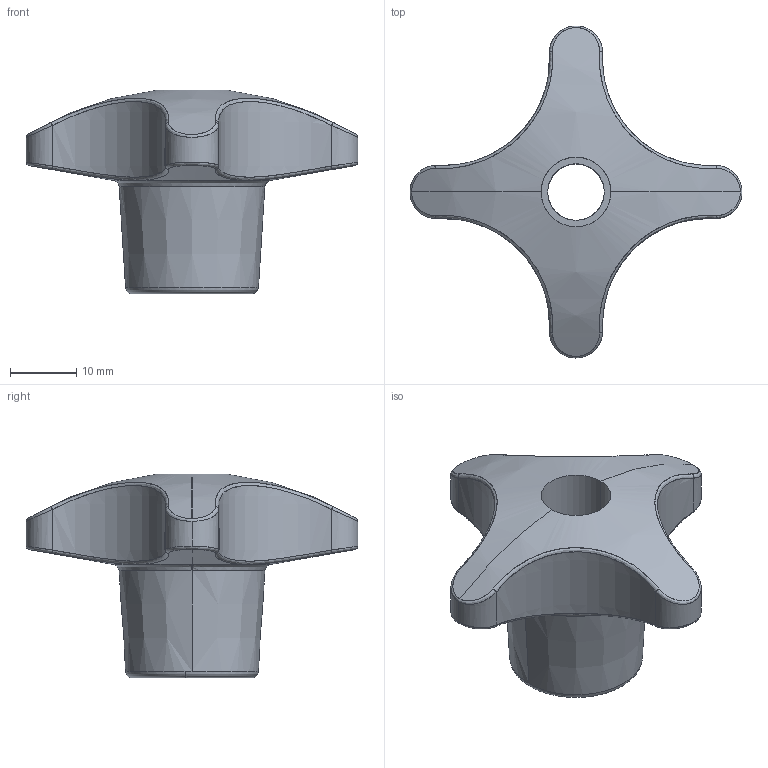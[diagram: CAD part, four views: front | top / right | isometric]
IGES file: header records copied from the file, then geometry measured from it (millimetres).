
Start section: SolidWorks IGES file using analytic representation for surfaces
Global section: file name: C:\Users\Marc\Documents\2 ENGINYERIA\Catalogo 3D\IGS STEP DXF\1121 50 401.IGS; native system: SolidWorks 2010; preprocessor: SolidWorks 2010; author: Marc; date: 101126.165006; units: millimetre
Bounding box: 50 x 50 x 30.69 mm (x, y, z)
Surface area: 6712.9 mm2 (no closed solid volume)
Topology: 0 solids, 0 shells, 54 faces, 916 edges, 916 vertices
Faces by surface type: bspline 27, revolution 27
